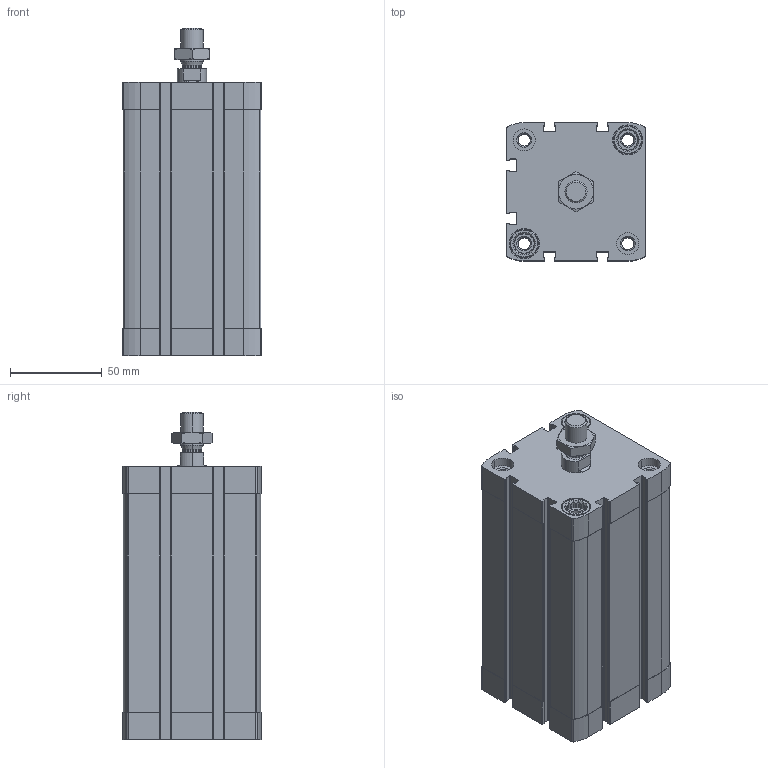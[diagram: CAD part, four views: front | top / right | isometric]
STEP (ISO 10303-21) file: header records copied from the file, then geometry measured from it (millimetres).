
FILE_DESCRIPTION (( 'STEP AP203' ), '1' );
FILE_NAME ('CCN63-100M.STEP', '2017-04-05T18:21:02', ( '' ), ( '' ), 'SwSTEP 2.0', 'SolidWorks 2016', '' );
FILE_SCHEMA (( 'CONFIG_CONTROL_DESIGN' ));
Length unit declared in the file: millimetre
Products named in the file (4): _DIN-439-B - M12x1.25(F)_1; CCN63-100M; CCN---(Z); CCN_(KS)
Assembly tree (3 placements, depth 2):
  CCN63-100M
    CCN---(Z)
    CCN_(KS)
    _DIN-439-B - M12x1.25(F)_1
Bounding box: 75.5 x 75.5 x 178.5 mm (x, y, z)
Volume: 493641.1 mm3; surface area: 129123.6 mm2
Topology: 3 solids, 3 shells, 491 faces, 1318 edges, 864 vertices
Faces by surface type: plane 227, cylinder 212, cone 48, bspline 4
Entity records: 16092 total; most frequent: CARTESIAN_POINT 3139, DIRECTION 2676, ORIENTED_EDGE 2636, EDGE_CURVE 1318, AXIS2_PLACEMENT_3D 979, VERTEX_POINT 864, VECTOR 718, LINE 718
